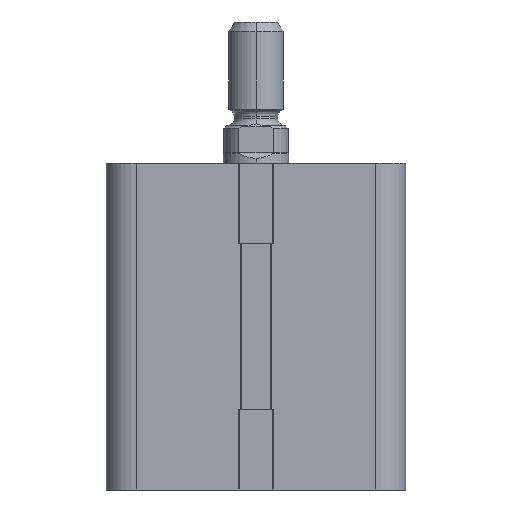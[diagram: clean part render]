
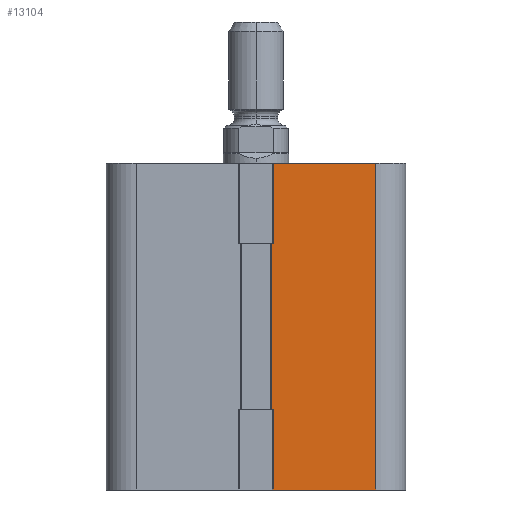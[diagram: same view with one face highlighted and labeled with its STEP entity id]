
A CAD part, front view. The second image highlights one B-rep face of the part: STEP entity #13104.
In plain terms, the highlighted planar face has unit normal (0, -1, 0).
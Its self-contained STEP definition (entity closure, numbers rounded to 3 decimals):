
#73 = ORIENTED_EDGE ( 'NONE', *, *, #1896, .T. ) ;
#74 = ORIENTED_EDGE ( 'NONE', *, *, #1873, .T. ) ;
#75 = ORIENTED_EDGE ( 'NONE', *, *, #903, .F. ) ;
#76 = ORIENTED_EDGE ( 'NONE', *, *, #9357, .T. ) ;
#77 = ORIENTED_EDGE ( 'NONE', *, *, #10373, .F. ) ;
#78 = ORIENTED_EDGE ( 'NONE', *, *, #9358, .T. ) ;
#79 = ORIENTED_EDGE ( 'NONE', *, *, #1879, .F. ) ;
#80 = ORIENTED_EDGE ( 'NONE', *, *, #1872, .T. ) ;
#903 = EDGE_CURVE ( 'NONE', #12459, #12458, #8121, .T. ) ;
#1872 = EDGE_CURVE ( 'NONE', #8802, #8779, #8504, .T. ) ;
#1873 = EDGE_CURVE ( 'NONE', #8801, #12458, #8496, .T. ) ;
#1879 = EDGE_CURVE ( 'NONE', #8802, #8806, #8515, .T. ) ;
#1896 = EDGE_CURVE ( 'NONE', #8779, #8801, #8537, .T. ) ;
#2762 = CARTESIAN_POINT ( 'NONE',  ( 2.875, -27.5, 30.5 ) ) ;
#2763 = DIRECTION ( 'NONE',  ( 0., 0., -1. ) ) ;
#2768 = CARTESIAN_POINT ( 'NONE',  ( 3.15, -27.5, 108.982 ) ) ;
#2773 = DIRECTION ( 'NONE',  ( 0., 0., -1. ) ) ;
#2779 = CARTESIAN_POINT ( 'NONE',  ( 2.675, -27.5, 30.5 ) ) ;
#2780 = DIRECTION ( 'NONE',  ( 1., 0., 0. ) ) ;
#2823 = DIRECTION ( 'NONE',  ( 1., 0., 0. ) ) ;
#2827 = CARTESIAN_POINT ( 'NONE',  ( 2.675, -27.5, 0. ) ) ;
#3114 = CARTESIAN_POINT ( 'NONE',  ( 2.875, -27.5, 0. ) ) ;
#3136 = CARTESIAN_POINT ( 'NONE',  ( 3.15, -27.5, 0. ) ) ;
#3137 = CARTESIAN_POINT ( 'NONE',  ( 2.875, -27.5, 30.5 ) ) ;
#3141 = CARTESIAN_POINT ( 'NONE',  ( 3.15, -27.5, 30.5 ) ) ;
#3452 = CARTESIAN_POINT ( 'NONE',  ( 2.675, -27.5, 30.5 ) ) ;
#3457 = PLANE ( 'NONE',  #12289 ) ;
#3460 = DIRECTION ( 'NONE',  ( 0., 1., 0. ) ) ;
#3461 = DIRECTION ( 'NONE',  ( 0., 0., 1. ) ) ;
#4764 = CARTESIAN_POINT ( 'NONE',  ( 22., -27.5, 30.5 ) ) ;
#4765 = DIRECTION ( 'NONE',  ( 0., 0., 1. ) ) ;
#4766 = CARTESIAN_POINT ( 'NONE',  ( 3.15, -27.5, 108.982 ) ) ;
#4767 = DIRECTION ( 'NONE',  ( 0., 0., -1. ) ) ;
#5026 = LINE ( 'NONE', #4764, #5029 ) ;
#5028 = LINE ( 'NONE', #4766, #5031 ) ;
#5029 = VECTOR ( 'NONE', #4765, 1000. ) ;
#5031 = VECTOR ( 'NONE', #4767, 1000. ) ;
#5410 = LINE ( 'NONE', #5844, #5412 ) ;
#5412 = VECTOR ( 'NONE', #5845, 1000. ) ;
#5844 = CARTESIAN_POINT ( 'NONE',  ( 2.95, -27.5, 45.25 ) ) ;
#5845 = DIRECTION ( 'NONE',  ( 1., 0., 0. ) ) ;
#6388 = CARTESIAN_POINT ( 'NONE',  ( 3.15, -27.5, -14.75 ) ) ;
#6389 = CARTESIAN_POINT ( 'NONE',  ( 22., -27.5, -14.75 ) ) ;
#7927 = CARTESIAN_POINT ( 'NONE',  ( 27.5, -27.5, -14.75 ) ) ;
#7928 = DIRECTION ( 'NONE',  ( -1., 0., 0. ) ) ;
#8121 = LINE ( 'NONE', #7927, #8123 ) ;
#8123 = VECTOR ( 'NONE', #7928, 1000. ) ;
#8496 = LINE ( 'NONE', #2768, #8508 ) ;
#8504 = LINE ( 'NONE', #2762, #8506 ) ;
#8506 = VECTOR ( 'NONE', #2763, 1000. ) ;
#8508 = VECTOR ( 'NONE', #2773, 1000. ) ;
#8515 = LINE ( 'NONE', #2779, #8517 ) ;
#8517 = VECTOR ( 'NONE', #2780, 1000. ) ;
#8537 = LINE ( 'NONE', #2827, #8542 ) ;
#8542 = VECTOR ( 'NONE', #2823, 1000. ) ;
#8779 = VERTEX_POINT ( 'NONE', #3114 ) ;
#8801 = VERTEX_POINT ( 'NONE', #3136 ) ;
#8802 = VERTEX_POINT ( 'NONE', #3137 ) ;
#8806 = VERTEX_POINT ( 'NONE', #3141 ) ;
#9244 = EDGE_LOOP ( 'NONE', ( #73, #74, #75, #76, #77, #78, #79, #80 ) ) ;
#9357 = EDGE_CURVE ( 'NONE', #12459, #12734, #5026, .T. ) ;
#9358 = EDGE_CURVE ( 'NONE', #12735, #8806, #5028, .T. ) ;
#10373 = EDGE_CURVE ( 'NONE', #12735, #12734, #5410, .T. ) ;
#11231 = CARTESIAN_POINT ( 'NONE',  ( 22., -27.5, 45.25 ) ) ;
#11232 = CARTESIAN_POINT ( 'NONE',  ( 3.15, -27.5, 45.25 ) ) ;
#12135 = FACE_OUTER_BOUND ( 'NONE', #9244, .T. ) ;
#12289 = AXIS2_PLACEMENT_3D ( 'NONE', #3452, #3460, #3461 ) ;
#12458 = VERTEX_POINT ( 'NONE', #6388 ) ;
#12459 = VERTEX_POINT ( 'NONE', #6389 ) ;
#12734 = VERTEX_POINT ( 'NONE', #11231 ) ;
#12735 = VERTEX_POINT ( 'NONE', #11232 ) ;
#13104 = ADVANCED_FACE ( 'NONE', ( #12135 ), #3457, .F. ) ;
